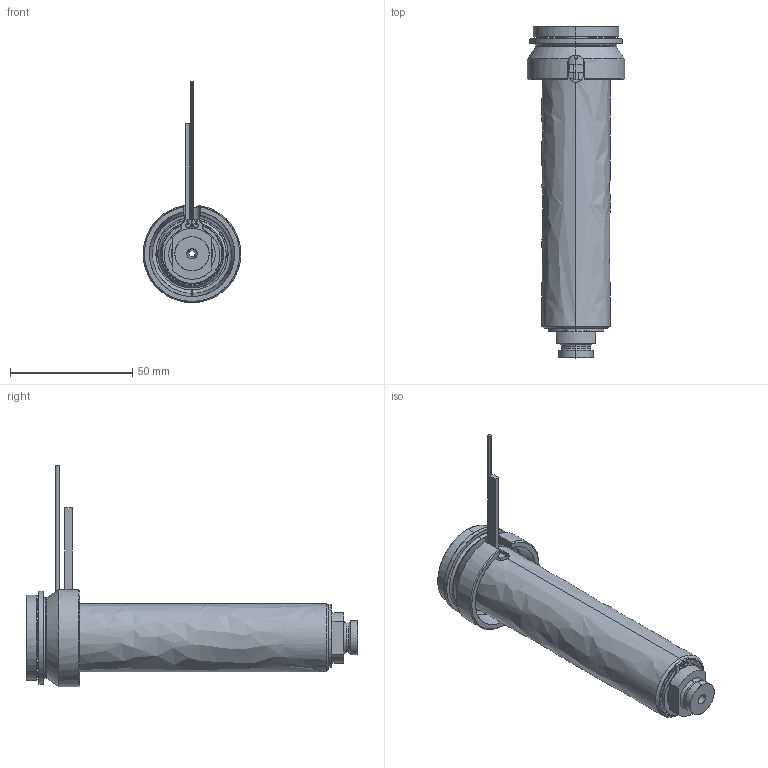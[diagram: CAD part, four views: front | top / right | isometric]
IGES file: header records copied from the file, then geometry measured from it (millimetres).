
Start section: SolidWorks IGES file using analytic representation for surfaces
Global section: file name: C:\Documents and Settings\ws-20\Desktop\TEMPORANEA\UGBE4003-S-A-5 [Ød-2.5 P-0 ØC-10].IGS; native system: SolidWorks 2012; preprocessor: SolidWorks 2012; author: ws-20; date: 120306.140913; units: millimetre
Bounding box: 40 x 136 x 90.65 mm (x, y, z)
Surface area: 41628.9 mm2 (no closed solid volume)
Topology: 0 solids, 0 shells, 106 faces, 1837 edges, 1837 vertices
Faces by surface type: revolution 66, bspline 40
